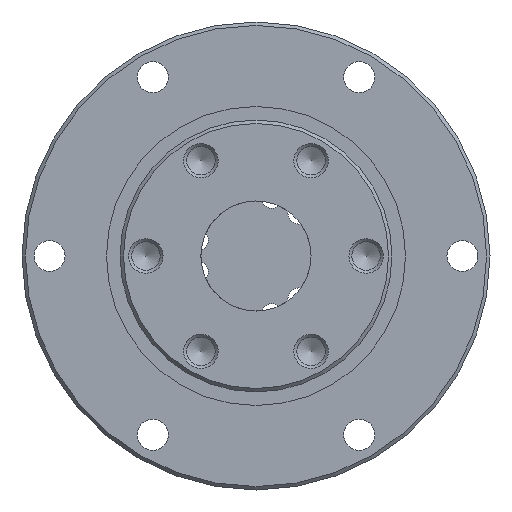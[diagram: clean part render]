
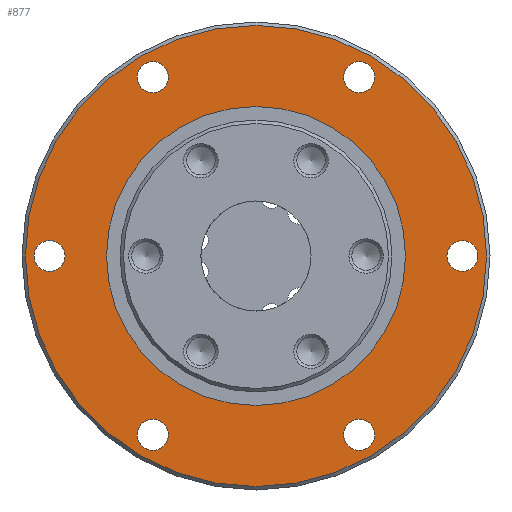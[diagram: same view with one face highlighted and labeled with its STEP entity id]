
A CAD part, left-side view. The second image highlights one B-rep face of the part: STEP entity #877.
In plain terms, the highlighted planar face has unit normal (-1, 0, 0).
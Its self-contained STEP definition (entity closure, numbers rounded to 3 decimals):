
#65=PLANE('',#1007);
#184=ORIENTED_EDGE('',*,*,#334,.F.);
#185=ORIENTED_EDGE('',*,*,#335,.F.);
#186=ORIENTED_EDGE('',*,*,#336,.F.);
#187=ORIENTED_EDGE('',*,*,#337,.F.);
#188=ORIENTED_EDGE('',*,*,#338,.F.);
#189=ORIENTED_EDGE('',*,*,#339,.F.);
#190=ORIENTED_EDGE('',*,*,#340,.F.);
#191=ORIENTED_EDGE('',*,*,#333,.T.);
#333=EDGE_CURVE('',#416,#416,#505,.T.);
#334=EDGE_CURVE('',#417,#417,#506,.T.);
#335=EDGE_CURVE('',#418,#418,#507,.F.);
#336=EDGE_CURVE('',#419,#419,#508,.F.);
#337=EDGE_CURVE('',#420,#420,#509,.F.);
#338=EDGE_CURVE('',#421,#421,#510,.F.);
#339=EDGE_CURVE('',#422,#422,#511,.F.);
#340=EDGE_CURVE('',#423,#423,#512,.F.);
#416=VERTEX_POINT('',#1528);
#417=VERTEX_POINT('',#1531);
#418=VERTEX_POINT('',#1533);
#419=VERTEX_POINT('',#1535);
#420=VERTEX_POINT('',#1537);
#421=VERTEX_POINT('',#1539);
#422=VERTEX_POINT('',#1541);
#423=VERTEX_POINT('',#1543);
#505=CIRCLE('',#1006,21.725);
#506=CIRCLE('',#1008,33.5);
#507=CIRCLE('',#1009,2.25);
#508=CIRCLE('',#1010,2.25);
#509=CIRCLE('',#1011,2.25);
#510=CIRCLE('',#1012,2.25);
#511=CIRCLE('',#1013,2.25);
#512=CIRCLE('',#1014,2.25);
#583=EDGE_LOOP('',(#184));
#584=EDGE_LOOP('',(#185));
#585=EDGE_LOOP('',(#186));
#586=EDGE_LOOP('',(#187));
#587=EDGE_LOOP('',(#188));
#588=EDGE_LOOP('',(#189));
#589=EDGE_LOOP('',(#190));
#590=EDGE_LOOP('',(#191));
#715=FACE_BOUND('',#583,.T.);
#716=FACE_BOUND('',#584,.T.);
#717=FACE_BOUND('',#585,.T.);
#718=FACE_BOUND('',#586,.T.);
#719=FACE_BOUND('',#587,.T.);
#720=FACE_BOUND('',#588,.T.);
#721=FACE_BOUND('',#589,.T.);
#722=FACE_BOUND('',#590,.T.);
#877=ADVANCED_FACE('',(#715,#716,#717,#718,#719,#720,#721,#722),#65,.F.);
#1006=AXIS2_PLACEMENT_3D('',#1527,#1228,#1229);
#1007=AXIS2_PLACEMENT_3D('',#1529,#1230,#1231);
#1008=AXIS2_PLACEMENT_3D('',#1530,#1232,#1233);
#1009=AXIS2_PLACEMENT_3D('',#1532,#1234,#1235);
#1010=AXIS2_PLACEMENT_3D('',#1534,#1236,#1237);
#1011=AXIS2_PLACEMENT_3D('',#1536,#1238,#1239);
#1012=AXIS2_PLACEMENT_3D('',#1538,#1240,#1241);
#1013=AXIS2_PLACEMENT_3D('',#1540,#1242,#1243);
#1014=AXIS2_PLACEMENT_3D('',#1542,#1244,#1245);
#1228=DIRECTION('',(1.,0.,0.));
#1229=DIRECTION('',(0.,0.,-1.));
#1230=DIRECTION('',(1.,0.,0.));
#1231=DIRECTION('',(0.,0.,-1.));
#1232=DIRECTION('',(1.,0.,0.));
#1233=DIRECTION('',(0.,0.,-1.));
#1234=DIRECTION('',(1.,0.,0.));
#1235=DIRECTION('',(0.,0.,-1.));
#1236=DIRECTION('',(1.,0.,0.));
#1237=DIRECTION('',(0.,0.,-1.));
#1238=DIRECTION('',(1.,0.,0.));
#1239=DIRECTION('',(0.,0.,-1.));
#1240=DIRECTION('',(1.,0.,0.));
#1241=DIRECTION('',(0.,0.,-1.));
#1242=DIRECTION('',(1.,0.,0.));
#1243=DIRECTION('',(0.,0.,-1.));
#1244=DIRECTION('',(1.,0.,0.));
#1245=DIRECTION('',(0.,0.,-1.));
#1527=CARTESIAN_POINT('',(10.,0.,0.));
#1528=CARTESIAN_POINT('',(10.,0.,-21.725));
#1529=CARTESIAN_POINT('',(10.,21.725,0.));
#1530=CARTESIAN_POINT('',(10.,0.,0.));
#1531=CARTESIAN_POINT('',(10.,0.,-33.5));
#1532=CARTESIAN_POINT('',(10.,30.,0.));
#1533=CARTESIAN_POINT('',(10.,30.,-2.25));
#1534=CARTESIAN_POINT('',(10.,15.,-25.981));
#1535=CARTESIAN_POINT('',(10.,15.,-28.231));
#1536=CARTESIAN_POINT('',(10.,-15.,-25.981));
#1537=CARTESIAN_POINT('',(10.,-15.,-28.231));
#1538=CARTESIAN_POINT('',(10.,-30.,0.));
#1539=CARTESIAN_POINT('',(10.,-30.,-2.25));
#1540=CARTESIAN_POINT('',(10.,-15.,25.981));
#1541=CARTESIAN_POINT('',(10.,-15.,23.731));
#1542=CARTESIAN_POINT('',(10.,15.,25.981));
#1543=CARTESIAN_POINT('',(10.,15.,23.731));
